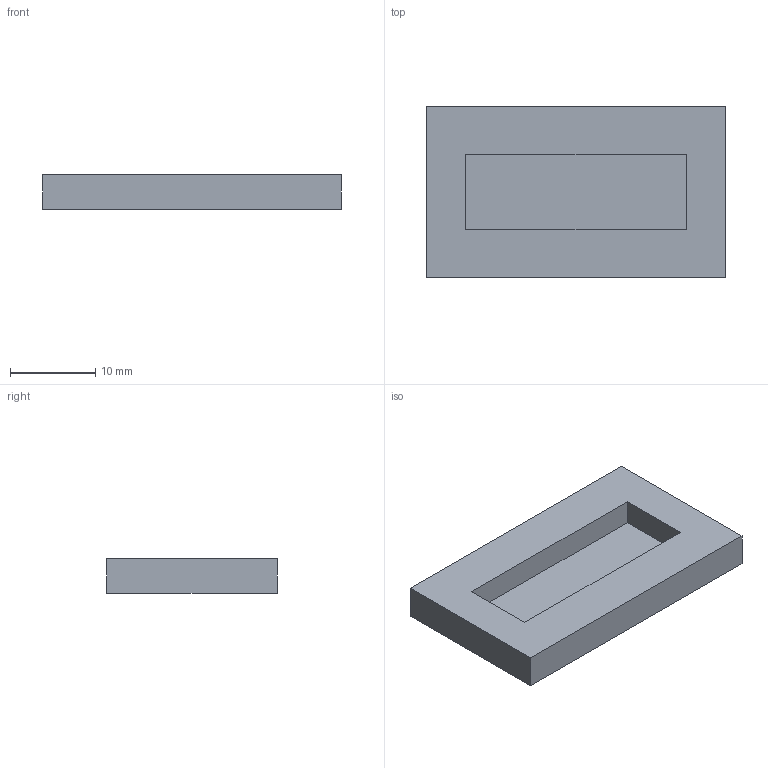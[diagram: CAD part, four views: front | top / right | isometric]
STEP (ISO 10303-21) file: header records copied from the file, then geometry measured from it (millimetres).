
FILE_DESCRIPTION(('FreeCAD Model'),'2;1');
FILE_NAME('Open CASCADE Shape Model','2026-11-20T08:25:39',('FreeCAD'),( 'FreeCAD'),'Open CASCADE STEP processor 7.8','FreeCAD','Unknown');
FILE_SCHEMA(('AUTOMOTIVE_DESIGN { 1 0 10303 214 1 1 1 1 }'));
Length unit declared in the file: millimetre
Products named in the file (1): Open CASCADE STEP translator 7.8 105
Bounding box: 35 x 20 x 4 mm (x, y, z)
Volume: 2118.9 mm3; surface area: 2047.6 mm2
Topology: 1 solids, 1 shells, 11 faces, 24 edges, 16 vertices
Faces by surface type: plane 11
Entity records: 308 total; most frequent: CARTESIAN_POINT 52, DIRECTION 48, ORIENTED_EDGE 48, EDGE_CURVE 24, LINE 24, VECTOR 24, VERTEX_POINT 16, AXIS2_PLACEMENT_3D 12
